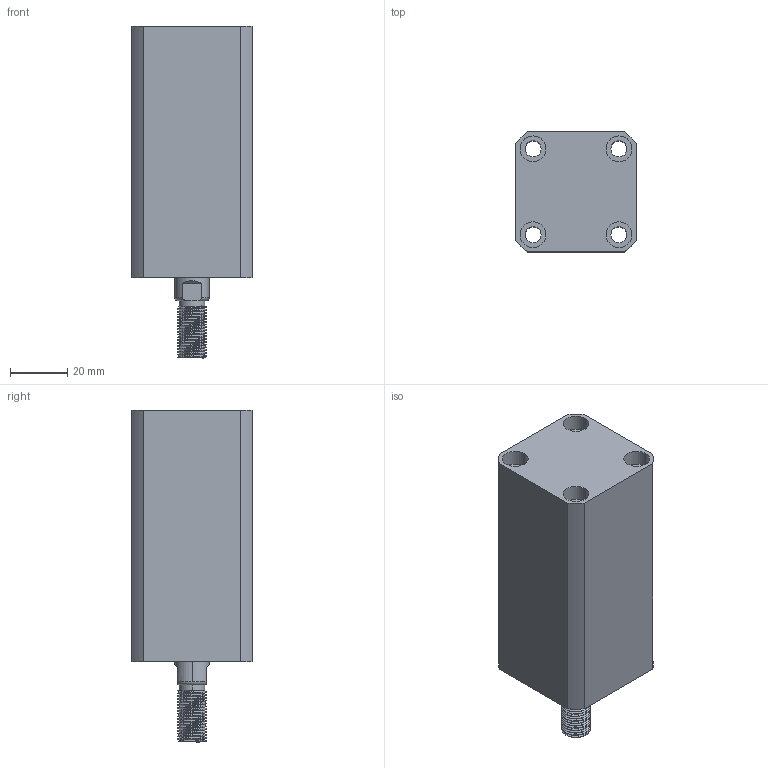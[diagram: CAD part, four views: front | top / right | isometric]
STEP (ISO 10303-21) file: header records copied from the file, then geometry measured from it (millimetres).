
FILE_DESCRIPTION (( 'STEP AP214' ), '1' );
FILE_NAME ('chtb-sd20x45w_asm.STEP', '2018-05-16T09:28:05', ( 'Windows' ), ( 'Microsoft' ), 'SwSTEP 2.0', 'SolidWorks 2015', '' );
FILE_SCHEMA (( 'AUTOMOTIVE_DESIGN' ));
Length unit declared in the file: millimetre
Products named in the file (4): CHTB-SD20X45WHSG; CHTB-SD20X45NBT; chtb-sd20x45w_asm; QG
Assembly tree (3 placements, depth 2):
  chtb-sd20x45w_asm
    CHTB-SD20X45NBT
    CHTB-SD20X45WHSG
    QG
Bounding box: 42 x 42 x 116 mm (x, y, z)
Volume: 132500 mm3; surface area: 40112.8 mm2
Topology: 3 solids, 3 shells, 234 faces, 624 edges, 415 vertices
Faces by surface type: cylinder 139, plane 40, torus 25, bspline 21, cone 9
Entity records: 13734 total; most frequent: CARTESIAN_POINT 8172, ORIENTED_EDGE 1240, DIRECTION 1039, EDGE_CURVE 620, AXIS2_PLACEMENT_3D 431, VERTEX_POINT 415, EDGE_LOOP 271, FACE_OUTER_BOUND 234
